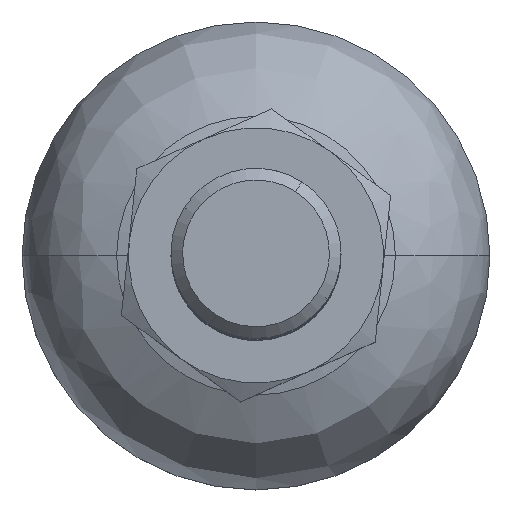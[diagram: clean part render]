
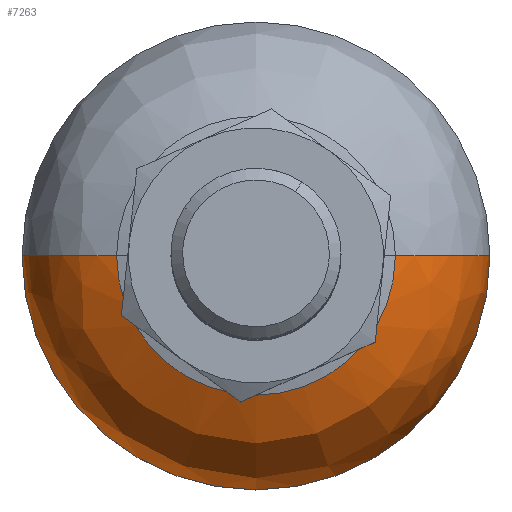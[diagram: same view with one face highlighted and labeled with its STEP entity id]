
A CAD part, top view. The second image highlights one B-rep face of the part: STEP entity #7263.
In plain terms, the highlighted free-form (B-spline) face has degree [3, 3] with [4, 4] control points.
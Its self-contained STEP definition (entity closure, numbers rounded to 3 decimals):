
#12 = AXIS2_PLACEMENT_3D ( 'NONE', #9486, #11891, #1282 ) ;
#635 = CARTESIAN_POINT ( 'NONE',  ( -53.56, 8.53, 6.892 ) ) ;
#984 = CARTESIAN_POINT ( 'NONE',  ( -18.454, -17.681, 18.483 ) ) ;
#1053 = CARTESIAN_POINT ( 'NONE',  ( -50.122, -28.593, 17.022 ) ) ;
#1280 = DIRECTION ( 'NONE',  ( 0., 1., 0. ) ) ;
#1282 = DIRECTION ( 'NONE',  ( -1., 0., 0. ) ) ;
#1283 = CARTESIAN_POINT ( 'NONE',  ( -18.454, 8.53, 18.483 ) ) ;
#1363 = DIRECTION ( 'NONE',  ( 0., 1., 0. ) ) ;
#2141 = FACE_OUTER_BOUND ( 'NONE', #9062, .T. ) ;
#2389 = EDGE_CURVE ( 'NONE', #3862, #9056, #6102, .T. ) ;
#3261 =( BOUNDED_SURFACE ( )  B_SPLINE_SURFACE ( 3, 3, ( 
 ( #6845, #8091, #9404, #14994 ),
 ( #14131, #14060, #6913, #8234 ),
 ( #11590, #8158, #1053, #5761 ),
 ( #12892, #984, #5684, #12669 ) ),
 .UNSPECIFIED., .F., .F., .F. ) 
 B_SPLINE_SURFACE_WITH_KNOTS ( ( 4, 4 ),
 ( 4, 4 ),
 ( 0., 1. ),
 ( 0., 1. ),
 .UNSPECIFIED. ) 
 GEOMETRIC_REPRESENTATION_ITEM ( )  RATIONAL_B_SPLINE_SURFACE ( (
 ( 1., 0.333, 0.333, 1.),
 ( 0.862, 0.287, 0.287, 0.862),
 ( 0.862, 0.287, 0.287, 0.862),
 ( 1., 0.333, 0.333, 1.) ) ) 
 REPRESENTATION_ITEM ( '' )  SURFACE ( )  );
#3716 = VERTEX_POINT ( 'NONE', #635 ) ;
#3862 = VERTEX_POINT ( 'NONE', #12774 ) ;
#3908 = DIRECTION ( 'NONE',  ( 1., 0., 0. ) ) ;
#4347 = CIRCLE ( 'NONE', #4584, 22. ) ;
#4514 = EDGE_CURVE ( 'NONE', #3716, #3862, #7147, .T. ) ;
#4584 = AXIS2_PLACEMENT_3D ( 'NONE', #14438, #5067, #1280 ) ;
#4804 = ORIENTED_EDGE ( 'NONE', *, *, #2389, .F. ) ;
#5067 = DIRECTION ( 'NONE',  ( 0., 0., 1. ) ) ;
#5173 = CARTESIAN_POINT ( 'NONE',  ( -31.56, 8.53, 18.483 ) ) ;
#5684 = CARTESIAN_POINT ( 'NONE',  ( -44.666, -17.681, 18.483 ) ) ;
#5761 = CARTESIAN_POINT ( 'NONE',  ( -50.122, 8.53, 17.022 ) ) ;
#6078 = AXIS2_PLACEMENT_3D ( 'NONE', #11659, #1363, #3908 ) ;
#6102 = CIRCLE ( 'NONE', #14757, 13.106 ) ;
#6845 = CARTESIAN_POINT ( 'NONE',  ( -9.56, 8.53, 6.892 ) ) ;
#6913 = CARTESIAN_POINT ( 'NONE',  ( -53.56, -35.47, 12.54 ) ) ;
#7147 = CIRCLE ( 'NONE', #12, 12. ) ;
#7263 = ADVANCED_FACE ( 'NONE', ( #2141 ), #3261, .T. ) ;
#8091 = CARTESIAN_POINT ( 'NONE',  ( -9.56, -35.47, 6.892 ) ) ;
#8158 = CARTESIAN_POINT ( 'NONE',  ( -12.998, -28.593, 17.022 ) ) ;
#8234 = CARTESIAN_POINT ( 'NONE',  ( -53.56, 8.53, 12.54 ) ) ;
#8849 = VERTEX_POINT ( 'NONE', #12602 ) ;
#9056 = VERTEX_POINT ( 'NONE', #1283 ) ;
#9062 = EDGE_LOOP ( 'NONE', ( #11427, #4804, #13336, #12442 ) ) ;
#9404 = CARTESIAN_POINT ( 'NONE',  ( -53.56, -35.47, 6.892 ) ) ;
#9486 = CARTESIAN_POINT ( 'NONE',  ( -41.56, 8.53, 6.892 ) ) ;
#9756 = DIRECTION ( 'NONE',  ( -1., 0., 0. ) ) ;
#9901 = DIRECTION ( 'NONE',  ( 0., 0., 1. ) ) ;
#10537 = CIRCLE ( 'NONE', #6078, 12. ) ;
#11427 = ORIENTED_EDGE ( 'NONE', *, *, #14786, .F. ) ;
#11590 = CARTESIAN_POINT ( 'NONE',  ( -12.998, 8.53, 17.022 ) ) ;
#11659 = CARTESIAN_POINT ( 'NONE',  ( -21.56, 8.53, 6.892 ) ) ;
#11891 = DIRECTION ( 'NONE',  ( 0., 1., 0. ) ) ;
#12442 = ORIENTED_EDGE ( 'NONE', *, *, #14831, .T. ) ;
#12602 = CARTESIAN_POINT ( 'NONE',  ( -9.56, 8.53, 6.892 ) ) ;
#12669 = CARTESIAN_POINT ( 'NONE',  ( -44.666, 8.53, 18.483 ) ) ;
#12774 = CARTESIAN_POINT ( 'NONE',  ( -44.666, 8.53, 18.483 ) ) ;
#12892 = CARTESIAN_POINT ( 'NONE',  ( -18.454, 8.53, 18.483 ) ) ;
#13336 = ORIENTED_EDGE ( 'NONE', *, *, #4514, .F. ) ;
#14060 = CARTESIAN_POINT ( 'NONE',  ( -9.56, -35.47, 12.54 ) ) ;
#14131 = CARTESIAN_POINT ( 'NONE',  ( -9.56, 8.53, 12.54 ) ) ;
#14438 = CARTESIAN_POINT ( 'NONE',  ( -31.56, 8.53, 6.892 ) ) ;
#14757 = AXIS2_PLACEMENT_3D ( 'NONE', #5173, #9901, #9756 ) ;
#14786 = EDGE_CURVE ( 'NONE', #9056, #8849, #10537, .T. ) ;
#14831 = EDGE_CURVE ( 'NONE', #3716, #8849, #4347, .T. ) ;
#14994 = CARTESIAN_POINT ( 'NONE',  ( -53.56, 8.53, 6.892 ) ) ;
